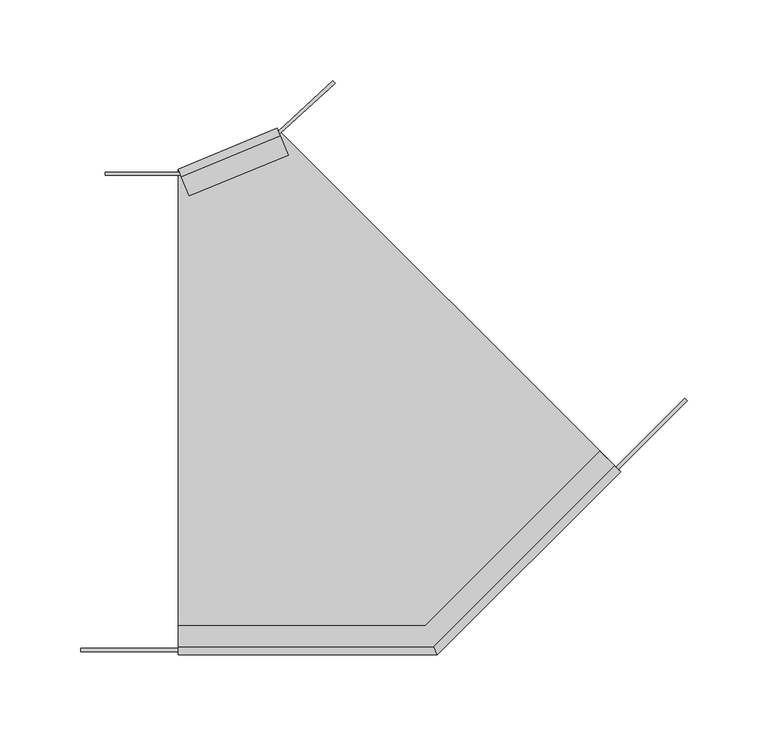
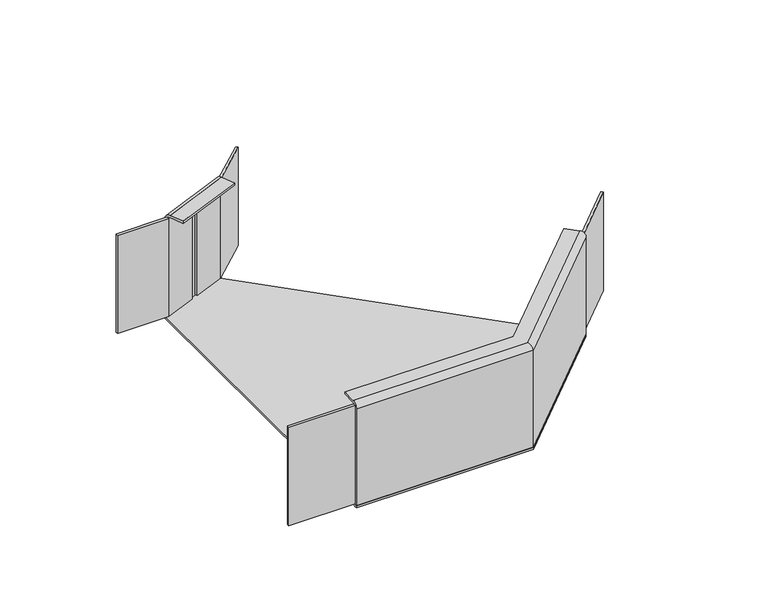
"""IFC4 building model written with IfcOpenShell, lengths in millimetres: cable carrier fitting geometry, CPWT45_Horizontal Bend_Basorcanal : Basorcanal CPWT45."""

from ifc_helpers import new_model, si_unit, point, frame, frame_2d, origin, place, context, project, spatial, polyline, circle_curve, ellipse_curve, trimmed, segment, composite_curve, outline, extrude, source, transform, mapped, element, save
from ifc_brep_helpers import plane_surface, cylinder_surface, revolved_surface, advanced_brep


def cable_carrier_fitting_3787a0c5(model_context):
    return source(origin(), model_context, "Body", "SolidModel", [
        extrude(outline(polyline([(0.0, 150.0), (61.0050506, 175.2691193), (273.137085, -36.862915), (160.0, -150.0), (0.0, -150.0), (0.0, 150.0)])), frame((0.0, 0.0, -50.0), z_axis=(0.0, 0.0, 1.0), x_axis=(1.0, 0.0, 0.0)), (0.0, 0.0, 1.0), 2.0),
        extrude(outline(polyline([(314.1492783, 6.9777054), (229.2964646, -77.8751083), (227.882251, -76.4608948), (312.7350647, 8.391919), (314.1492783, 6.9777054)])), frame((0.0, 0.0, -47.0), z_axis=(0.0, 0.0, 1.0), x_axis=(1.0, 0.0, 0.0)), (0.0, 0.0, 1.0), 94.0),
        extrude(outline(polyline([(-60.0, -148.0), (-60.0, -146.0), (60.0, -146.0), (60.0, -148.0), (-60.0, -148.0)])), frame((0.0, 0.0, -47.0), z_axis=(0.0, 0.0, 1.0), x_axis=(1.0, 0.0, 0.0)), (0.0, 0.0, 1.0), 94.0),
        extrude(outline(polyline([(61.7704175, 173.4213603), (95.552775, 204.3610053), (96.9669886, 202.9467917), (62.8561388, 171.7062964), (34.8239558, 160.094986), (34.0585889, 161.942745), (61.7704175, 173.4213603)])), frame((0.0, 0.0, -47.0), z_axis=(0.0, 0.0, 1.0), x_axis=(1.0, 0.0, 0.0)), (0.0, 0.0, 1.0), 94.0),
        extrude(outline(polyline([(0.7653669, 148.1522409), (28.4817528, 159.6327439), (29.2471197, 157.7849848), (1.1631916, 146.1522409), (-45.0, 146.1522409), (-45.0, 148.1522409), (0.7653669, 148.1522409)])), frame((0.0, 0.0, -47.0), z_axis=(0.0, 0.0, 1.0), x_axis=(1.0, 0.0, 0.0)), (0.0, 0.0, 1.0), 94.0),
        advanced_brep(
        [(273.137085, -36.862915, 45.0), (273.137085, -36.862915, -50.0), (271.7228714, -35.4487014, -50.0), (271.7228714, -35.4487014, 45.0), (269.6015511, -33.3273811, 48.0), (260.4091629, -24.1349929, 48.0), (260.4091629, -24.1349929, 50.0), (269.6015511, -33.3273811, 50.0), (157.9289322, -145.0, 50.0), (160.0, -150.0, 45.0), (152.5441559, -132.0, 50.0), (0.0, -132.0, 50.0), (0.0, -145.0, 50.0), (152.5441559, -132.0, 48.0), (157.9289322, -145.0, 48.0), (0.0, -145.0, 48.0), (0.0, -132.0, 48.0), (159.1715729, -148.0, 45.0), (159.1715729, -148.0, -50.0), (160.0, -150.0, -50.0), (0.0, -150.0, -50.0), (0.0, -148.0, -50.0), (0.0, -150.0, 45.0), (0.0, -148.0, 45.0)],
        [
            (0, 1),
            (1, 2),
            (2, 3),
            (3, 4, circle_curve(frame((269.6015511, -33.3273811, 45.0), z_axis=(-0.707106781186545, -0.7071067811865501, 0.0), x_axis=(-0.7071067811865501, 0.707106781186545, 0.0)), 3.0)),
            (4, 5),
            (5, 6),
            (6, 7),
            (7, 0, circle_curve(frame((269.6015511, -33.3273811, 45.0), z_axis=(0.707106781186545, 0.7071067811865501, 0.0), x_axis=(-0.7071067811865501, 0.707106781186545, 0.0)), 5.0)),
            (7, 8),
            (8, 9, ellipse_curve(frame((157.9289322, -145.0, 45.0), z_axis=(0.923879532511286, 0.38268343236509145, 0.0), x_axis=(-0.38268343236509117, 0.9238795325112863, 0.0)), 5.411961, 5.0)),
            (9, 0),
            (6, 10),
            (10, 11),
            (11, 12),
            (12, 8),
            (5, 13),
            (13, 10),
            (4, 14),
            (14, 15),
            (15, 16),
            (16, 13),
            (3, 17),
            (17, 14, ellipse_curve(frame((157.9289322, -145.0, 45.0), z_axis=(-0.923879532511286, -0.38268343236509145, 0.0), x_axis=(0.38268343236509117, -0.9238795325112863, 0.0)), 3.2471766, 3.0)),
            (2, 18),
            (18, 17),
            (1, 19),
            (19, 20),
            (20, 21),
            (21, 18),
            (9, 19),
            (22, 12, circle_curve(frame((0.0, -145.0, 45.0), z_axis=(-1.0, 0.0, 0.0), x_axis=(0.0, 1.0, 0.0)), 5.0)),
            (11, 16),
            (15, 23, circle_curve(frame((0.0, -145.0, 45.0), z_axis=(1.0, 0.0, 0.0), x_axis=(0.0, 1.0, 0.0)), 3.0)),
            (23, 21),
            (20, 22),
            (22, 9),
            (17, 23),
        ],
        [
            plane_surface(frame((273.137085, -36.862915, -50.0), z_axis=(0.707106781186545, 0.7071067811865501, 0.0), x_axis=(0.0, 0.0, -1.0))),
            cylinder_surface(frame((269.6015511, -33.3273811, 45.0), z_axis=(0.707106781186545, 0.7071067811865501, 0.0), x_axis=(-0.7071067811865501, 0.707106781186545, 0.0)), 5.0),
            plane_surface(frame((260.4091629, -24.1349929, 50.0), z_axis=(0.0, 0.0, 1.0), x_axis=(-0.7071067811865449, -0.7071067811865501, 0.0))),
            plane_surface(frame((260.4091629, -24.1349929, 48.0), z_axis=(-0.7071067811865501, 0.707106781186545, 0.0), x_axis=(-0.707106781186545, -0.7071067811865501, 0.0))),
            plane_surface(frame((269.6015511, -33.3273811, 48.0), z_axis=(0.0, 0.0, -1.0), x_axis=(-0.707106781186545, -0.7071067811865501, 0.0))),
            revolved_surface(polyline([(154.92893220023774, -143.75735931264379, 45.0), (267.48023075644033, -31.206060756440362, 45.0)]), (269.6015511, -33.3273811, 45.0), (-0.707106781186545, -0.7071067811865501, 0.0)),
            plane_surface(frame((271.7228714, -35.4487014, -50.0), z_axis=(-0.7071067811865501, 0.7071067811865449, 0.0), x_axis=(-0.7071067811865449, -0.7071067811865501, 0.0))),
            plane_surface(frame((273.137085, -36.862915, -50.0), z_axis=(0.0, 0.0, -1.0), x_axis=(-0.707106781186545, -0.7071067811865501, 0.0))),
            plane_surface(frame((273.137085, -36.862915, 45.0), z_axis=(0.7071067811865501, -0.7071067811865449, 0.0), x_axis=(-0.7071067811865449, -0.7071067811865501, 0.0))),
            plane_surface(frame((0.0, -150.0, -50.0), z_axis=(-1.0, 0.0, 0.0), x_axis=(0.0, 0.0, -1.0))),
            cylinder_surface(frame((160.0, -145.0, 45.0), z_axis=(1.0, 0.0, 0.0), x_axis=(0.0, 1.0, 0.0)), 5.0),
            plane_surface(frame((152.5441559, -132.0, 48.0), z_axis=(0.0, 1.0, 0.0), x_axis=(-1.0, 0.0, 0.0))),
            revolved_surface(polyline([(0.0, -142.0, 45.0), (159.1715729, -142.0, 45.0)]), (160.0, -145.0, 45.0), (-1.0, 0.0, 0.0)),
            plane_surface(frame((159.1715729, -148.0, -50.0), z_axis=(0.0, 1.0, 0.0), x_axis=(-1.0, 0.0, 0.0))),
            plane_surface(frame((160.0, -150.0, 45.0), z_axis=(0.0, -1.0, 0.0), x_axis=(-1.0, 0.0, 0.0))),
        ],
        [
            (0, [[1, 2, 3, 4, 5, 6, 7, 8]]),
            (1, [[-8, 9, 10, 11]]),
            (2, [[-7, 12, 13, 14, 15, -9]]),
            (3, [[-6, 16, 17, -12]]),
            (4, [[-5, 18, 19, 20, 21, -16]]),
            (5, [[-4, 22, 23, -18]]),
            (6, [[-3, 24, 25, -22]]),
            (7, [[-2, 26, 27, 28, 29, -24]]),
            (8, [[-1, -11, 30, -26]]),
            (9, [[31, -14, 32, -20, 33, 34, -28, 35]]),
            (10, [[-10, -15, -31, 36]]),
            (11, [[-17, -21, -32, -13]]),
            (12, [[-23, 37, -33, -19]]),
            (13, [[-25, -29, -34, -37]]),
            (14, [[-30, -36, -35, -27]]),
        ],
    ),
        extrude(outline(composite_curve([segment(polyline([(-95.0, 0.0), (0.0, 0.0), (0.0, -2.0), (-95.0, -2.0)]), True, "CONTINUOUS"), segment(trimmed(circle_curve(frame_2d((-95.0, -5.0)), 3.0), [point((-95.0, -2.0))], [point((-98.0, -5.0))], True, "CARTESIAN"), True, "CONTINUOUS"), segment(polyline([(-98.0, -5.0), (-98.0, -18.0), (-100.0, -18.0), (-100.0, -5.0)]), True, "CONTINUOUS"), segment(trimmed(circle_curve(frame_2d((-95.0, -5.0)), 5.0), [point((-100.0, -5.0))], [point((-95.0, 0.0))], False, "CARTESIAN"), True, "CONTINUOUS")], self_intersect=False)), frame((0.0, 150.0, -50.0), z_axis=(0.9238795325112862, 0.38268343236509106, 0.0), x_axis=(0.0, 0.0, -1.0)), (0.0, 0.0, 1.0), 66.031391),
    ])


if __name__ == "__main__":
    model = new_model("IFC4")
    model_context = context("Model", 3, world=origin())
    ifc_project = project(units=[si_unit("LENGTHUNIT", "METRE", prefix="MILLI")], contexts=[model_context])
    site = spatial("IfcSite", under=ifc_project)
    building = spatial("IfcBuilding", under=site)
    placement = place(None, origin())
    cable_carrier_fitting_shape = cable_carrier_fitting_3787a0c5(model_context)
    element("IfcCableCarrierFitting", 1, ObjectType="CPWT45_Horizontal Bend_Basorcanal : Basorcanal CPWT45", at=placement, inside=building, context=model_context, shape_type="MappedRepresentation", body=[
        mapped(cable_carrier_fitting_shape, transform((0.0, 0.0, 0.0), x_axis=(1.0, 0.0, 0.0), y_axis=(0.0, 1.0, 0.0), z_axis=(0.0, 0.0, 1.0))),
    ])
    save(model, "model.ifc")
